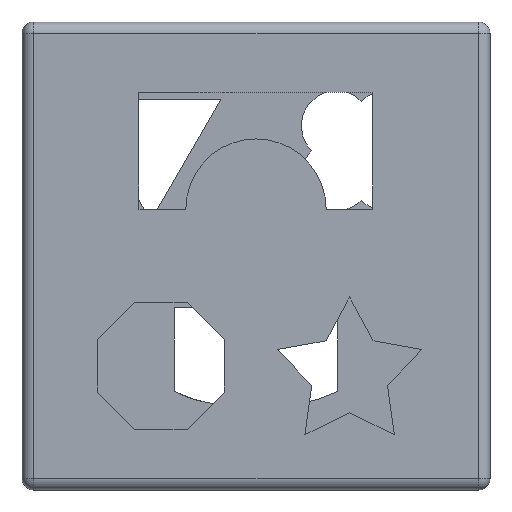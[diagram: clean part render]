
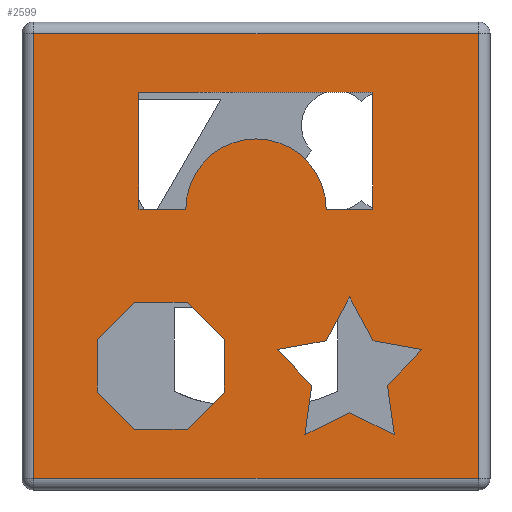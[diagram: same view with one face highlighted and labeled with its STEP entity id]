
A CAD part, left-side view. The second image highlights one B-rep face of the part: STEP entity #2599.
In plain terms, the highlighted planar face has unit normal (-1, 0, 0).
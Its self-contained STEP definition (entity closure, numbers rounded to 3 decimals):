
#24=FACE_BOUND('',#375,.T.);
#25=FACE_BOUND('',#376,.T.);
#26=FACE_BOUND('',#377,.T.);
#77=CIRCLE('',#2747,30.);
#233=FACE_OUTER_BOUND('',#374,.T.);
#374=EDGE_LOOP('',(#2074,#2075,#2076,#2077));
#375=EDGE_LOOP('',(#2078,#2079,#2080,#2081,#2082,#2083,#2084,#2085,#2086,
#2087));
#376=EDGE_LOOP('',(#2088,#2089,#2090,#2091,#2092,#2093,#2094,#2095));
#377=EDGE_LOOP('',(#2096,#2097,#2098,#2099,#2100,#2101));
#555=LINE('',#3821,#869);
#559=LINE('',#3829,#873);
#562=LINE('',#3835,#876);
#565=LINE('',#3841,#879);
#568=LINE('',#3847,#882);
#571=LINE('',#3853,#885);
#574=LINE('',#3859,#888);
#577=LINE('',#3865,#891);
#580=LINE('',#3871,#894);
#583=LINE('',#3876,#897);
#585=LINE('',#3881,#899);
#589=LINE('',#3889,#903);
#592=LINE('',#3895,#906);
#595=LINE('',#3901,#909);
#598=LINE('',#3907,#912);
#601=LINE('',#3913,#915);
#604=LINE('',#3919,#918);
#607=LINE('',#3924,#921);
#609=LINE('',#3929,#923);
#613=LINE('',#3937,#927);
#616=LINE('',#3943,#930);
#620=LINE('',#3955,#934);
#623=LINE('',#3960,#937);
#637=LINE('',#4040,#951);
#640=LINE('',#4044,#954);
#646=LINE('',#4053,#960);
#649=LINE('',#4061,#963);
#869=VECTOR('',#3087,10.);
#873=VECTOR('',#3093,10.);
#876=VECTOR('',#3098,10.);
#879=VECTOR('',#3103,10.);
#882=VECTOR('',#3108,10.);
#885=VECTOR('',#3113,10.);
#888=VECTOR('',#3118,10.);
#891=VECTOR('',#3123,10.);
#894=VECTOR('',#3128,10.);
#897=VECTOR('',#3133,10.);
#899=VECTOR('',#3137,10.);
#903=VECTOR('',#3143,10.);
#906=VECTOR('',#3148,10.);
#909=VECTOR('',#3153,10.);
#912=VECTOR('',#3158,10.);
#915=VECTOR('',#3163,10.);
#918=VECTOR('',#3168,10.);
#921=VECTOR('',#3173,10.);
#923=VECTOR('',#3177,10.);
#927=VECTOR('',#3183,10.);
#930=VECTOR('',#3188,10.);
#934=VECTOR('',#3200,10.);
#937=VECTOR('',#3205,10.);
#951=VECTOR('',#3299,10.);
#954=VECTOR('',#3304,10.);
#960=VECTOR('',#3316,10.);
#963=VECTOR('',#3325,10.);
#1159=VERTEX_POINT('',#3819);
#1160=VERTEX_POINT('',#3820);
#1163=VERTEX_POINT('',#3828);
#1165=VERTEX_POINT('',#3834);
#1167=VERTEX_POINT('',#3840);
#1169=VERTEX_POINT('',#3846);
#1171=VERTEX_POINT('',#3852);
#1173=VERTEX_POINT('',#3858);
#1175=VERTEX_POINT('',#3864);
#1177=VERTEX_POINT('',#3870);
#1179=VERTEX_POINT('',#3879);
#1180=VERTEX_POINT('',#3880);
#1183=VERTEX_POINT('',#3888);
#1185=VERTEX_POINT('',#3894);
#1187=VERTEX_POINT('',#3900);
#1189=VERTEX_POINT('',#3906);
#1191=VERTEX_POINT('',#3912);
#1193=VERTEX_POINT('',#3918);
#1195=VERTEX_POINT('',#3927);
#1196=VERTEX_POINT('',#3928);
#1199=VERTEX_POINT('',#3936);
#1201=VERTEX_POINT('',#3942);
#1203=VERTEX_POINT('',#3948);
#1205=VERTEX_POINT('',#3954);
#1207=VERTEX_POINT('',#3963);
#1211=VERTEX_POINT('',#3971);
#1215=VERTEX_POINT('',#3980);
#1223=VERTEX_POINT('',#4002);
#1439=EDGE_CURVE('',#1159,#1160,#555,.T.);
#1443=EDGE_CURVE('',#1163,#1159,#559,.T.);
#1446=EDGE_CURVE('',#1165,#1163,#562,.T.);
#1449=EDGE_CURVE('',#1167,#1165,#565,.T.);
#1452=EDGE_CURVE('',#1169,#1167,#568,.T.);
#1455=EDGE_CURVE('',#1171,#1169,#571,.T.);
#1458=EDGE_CURVE('',#1173,#1171,#574,.T.);
#1461=EDGE_CURVE('',#1175,#1173,#577,.T.);
#1464=EDGE_CURVE('',#1177,#1175,#580,.T.);
#1467=EDGE_CURVE('',#1160,#1177,#583,.T.);
#1469=EDGE_CURVE('',#1179,#1180,#585,.T.);
#1473=EDGE_CURVE('',#1183,#1179,#589,.T.);
#1476=EDGE_CURVE('',#1185,#1183,#592,.T.);
#1479=EDGE_CURVE('',#1187,#1185,#595,.T.);
#1482=EDGE_CURVE('',#1189,#1187,#598,.T.);
#1485=EDGE_CURVE('',#1191,#1189,#601,.T.);
#1488=EDGE_CURVE('',#1193,#1191,#604,.T.);
#1491=EDGE_CURVE('',#1180,#1193,#607,.T.);
#1493=EDGE_CURVE('',#1195,#1196,#609,.T.);
#1497=EDGE_CURVE('',#1199,#1195,#613,.T.);
#1500=EDGE_CURVE('',#1201,#1199,#616,.T.);
#1503=EDGE_CURVE('',#1203,#1201,#77,.T.);
#1506=EDGE_CURVE('',#1205,#1203,#620,.T.);
#1509=EDGE_CURVE('',#1196,#1205,#623,.T.);
#1548=EDGE_CURVE('',#1211,#1223,#637,.T.);
#1551=EDGE_CURVE('',#1223,#1215,#640,.T.);
#1557=EDGE_CURVE('',#1215,#1207,#646,.T.);
#1561=EDGE_CURVE('',#1207,#1211,#649,.T.);
#2074=ORIENTED_EDGE('',*,*,#1548,.F.);
#2075=ORIENTED_EDGE('',*,*,#1561,.F.);
#2076=ORIENTED_EDGE('',*,*,#1557,.F.);
#2077=ORIENTED_EDGE('',*,*,#1551,.F.);
#2078=ORIENTED_EDGE('',*,*,#1439,.T.);
#2079=ORIENTED_EDGE('',*,*,#1467,.T.);
#2080=ORIENTED_EDGE('',*,*,#1464,.T.);
#2081=ORIENTED_EDGE('',*,*,#1461,.T.);
#2082=ORIENTED_EDGE('',*,*,#1458,.T.);
#2083=ORIENTED_EDGE('',*,*,#1455,.T.);
#2084=ORIENTED_EDGE('',*,*,#1452,.T.);
#2085=ORIENTED_EDGE('',*,*,#1449,.T.);
#2086=ORIENTED_EDGE('',*,*,#1446,.T.);
#2087=ORIENTED_EDGE('',*,*,#1443,.T.);
#2088=ORIENTED_EDGE('',*,*,#1469,.T.);
#2089=ORIENTED_EDGE('',*,*,#1491,.T.);
#2090=ORIENTED_EDGE('',*,*,#1488,.T.);
#2091=ORIENTED_EDGE('',*,*,#1485,.T.);
#2092=ORIENTED_EDGE('',*,*,#1482,.T.);
#2093=ORIENTED_EDGE('',*,*,#1479,.T.);
#2094=ORIENTED_EDGE('',*,*,#1476,.T.);
#2095=ORIENTED_EDGE('',*,*,#1473,.T.);
#2096=ORIENTED_EDGE('',*,*,#1493,.T.);
#2097=ORIENTED_EDGE('',*,*,#1509,.T.);
#2098=ORIENTED_EDGE('',*,*,#1506,.T.);
#2099=ORIENTED_EDGE('',*,*,#1503,.T.);
#2100=ORIENTED_EDGE('',*,*,#1500,.T.);
#2101=ORIENTED_EDGE('',*,*,#1497,.T.);
#2467=PLANE('',#2803);
#2599=ADVANCED_FACE('',(#233,#24,#25,#26),#2467,.T.);
#2747=AXIS2_PLACEMENT_3D('',#3949,#3193,#3194);
#2803=AXIS2_PLACEMENT_3D('',#4086,#3347,#3348);
#3087=DIRECTION('',(0.,-0.471,-0.882));
#3093=DIRECTION('',(0.,-0.471,0.882));
#3098=DIRECTION('',(0.,-0.985,0.175));
#3103=DIRECTION('',(0.,0.694,0.72));
#3108=DIRECTION('',(0.,-0.138,0.99));
#3113=DIRECTION('',(0.,0.899,-0.437));
#3118=DIRECTION('',(0.,0.899,0.437));
#3123=DIRECTION('',(0.,-0.138,-0.99));
#3128=DIRECTION('',(0.,0.694,-0.72));
#3133=DIRECTION('',(0.,-0.985,-0.175));
#3137=DIRECTION('',(0.,0.,1.));
#3143=DIRECTION('',(0.,0.707,0.707));
#3148=DIRECTION('',(0.,1.,0.));
#3153=DIRECTION('',(0.,0.707,-0.707));
#3158=DIRECTION('',(0.,0.,-1.));
#3163=DIRECTION('',(0.,-0.707,-0.707));
#3168=DIRECTION('',(0.,-1.,0.));
#3173=DIRECTION('',(0.,-0.707,0.707));
#3177=DIRECTION('',(0.,-1.,0.));
#3183=DIRECTION('',(0.,0.,1.));
#3188=DIRECTION('',(0.,1.,0.));
#3193=DIRECTION('center_axis',(-1.,0.,0.));
#3194=DIRECTION('ref_axis',(0.,1.,0.001));
#3200=DIRECTION('',(0.,1.,0.));
#3205=DIRECTION('',(0.,0.,-1.));
#3299=DIRECTION('',(0.,1.,0.));
#3304=DIRECTION('',(0.,0.,1.));
#3316=DIRECTION('',(0.,-1.,0.));
#3325=DIRECTION('',(0.,0.,-1.));
#3347=DIRECTION('center_axis',(-1.,0.,0.));
#3348=DIRECTION('ref_axis',(0.,-1.,0.));
#3819=CARTESIAN_POINT('',(-100.,-40.,82.5));
#3820=CARTESIAN_POINT('',(-100.,-50.,63.764));
#3821=CARTESIAN_POINT('',(-100.,-41.616,79.473));
#3828=CARTESIAN_POINT('',(-100.,-30.,63.764));
#3829=CARTESIAN_POINT('',(-100.,-2.345,11.95));
#3834=CARTESIAN_POINT('',(-100.,-9.091,60.043));
#3835=CARTESIAN_POINT('',(-100.,48.959,49.713));
#3840=CARTESIAN_POINT('',(-100.,-23.82,44.743));
#3841=CARTESIAN_POINT('',(-100.,-5.22,64.064));
#3846=CARTESIAN_POINT('',(-100.,-20.897,23.707));
#3847=CARTESIAN_POINT('',(-100.,-18.136,3.838));
#3852=CARTESIAN_POINT('',(-100.,-40.,32.987));
#3853=CARTESIAN_POINT('',(-100.,23.117,2.325));
#3858=CARTESIAN_POINT('',(-100.,-59.103,23.707));
#3859=CARTESIAN_POINT('',(-100.,0.601,52.71));
#3864=CARTESIAN_POINT('',(-100.,-56.18,44.743));
#3865=CARTESIAN_POINT('',(-100.,-57.751,33.439));
#3870=CARTESIAN_POINT('',(-100.,-70.909,60.043));
#3871=CARTESIAN_POINT('',(-100.,-14.807,1.765));
#3876=CARTESIAN_POINT('',(-100.,17.199,75.722));
#3879=CARTESIAN_POINT('',(-100.,67.827,41.853));
#3880=CARTESIAN_POINT('',(-100.,67.827,64.353));
#3881=CARTESIAN_POINT('',(-100.,67.827,20.927));
#3888=CARTESIAN_POINT('',(-100.,51.917,25.944));
#3889=CARTESIAN_POINT('',(-100.,57.452,31.479));
#3894=CARTESIAN_POINT('',(-100.,29.417,25.944));
#3895=CARTESIAN_POINT('',(-100.,64.708,25.944));
#3900=CARTESIAN_POINT('',(-100.,13.507,41.853));
#3901=CARTESIAN_POINT('',(-100.,45.594,9.767));
#3906=CARTESIAN_POINT('',(-100.,13.507,64.353));
#3907=CARTESIAN_POINT('',(-100.,13.507,32.177));
#3912=CARTESIAN_POINT('',(-100.,29.417,80.263));
#3913=CARTESIAN_POINT('',(-100.,26.997,77.843));
#3918=CARTESIAN_POINT('',(-100.,51.917,80.263));
#3919=CARTESIAN_POINT('',(-100.,75.958,80.263));
#3924=CARTESIAN_POINT('',(-100.,91.958,40.222));
#3927=CARTESIAN_POINT('',(-100.,50.,170.));
#3928=CARTESIAN_POINT('',(-100.,-50.,170.));
#3929=CARTESIAN_POINT('',(-100.,75.,170.));
#3936=CARTESIAN_POINT('',(-100.,50.,120.));
#3937=CARTESIAN_POINT('',(-100.,50.,60.));
#3942=CARTESIAN_POINT('',(-100.,30.,120.));
#3943=CARTESIAN_POINT('',(-100.,65.,120.));
#3948=CARTESIAN_POINT('',(-100.,-30.,120.));
#3949=CARTESIAN_POINT('Origin',(-100.,0.,120.023));
#3954=CARTESIAN_POINT('',(-100.,-50.,120.));
#3955=CARTESIAN_POINT('',(-100.,25.,120.));
#3960=CARTESIAN_POINT('',(-100.,-50.,85.));
#3963=CARTESIAN_POINT('',(-100.,-95.,195.));
#3971=CARTESIAN_POINT('',(-100.,-95.,5.));
#3980=CARTESIAN_POINT('',(-100.,95.,195.));
#4002=CARTESIAN_POINT('',(-100.,95.,5.));
#4040=CARTESIAN_POINT('',(-100.,50.,5.));
#4044=CARTESIAN_POINT('',(-100.,95.,0.));
#4053=CARTESIAN_POINT('',(-100.,50.,195.));
#4061=CARTESIAN_POINT('',(-100.,-95.,0.));
#4086=CARTESIAN_POINT('Origin',(-100.,100.,0.));
